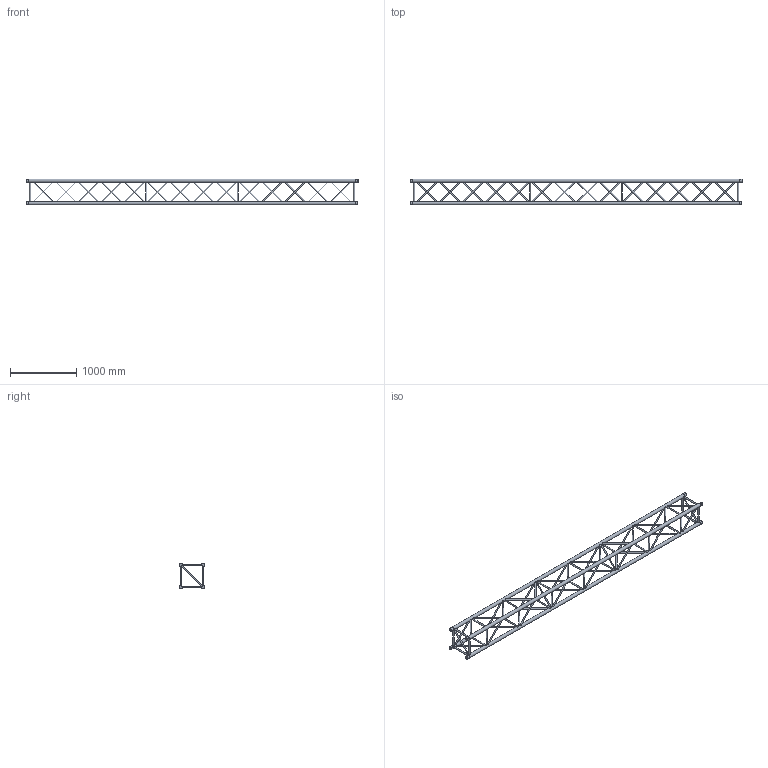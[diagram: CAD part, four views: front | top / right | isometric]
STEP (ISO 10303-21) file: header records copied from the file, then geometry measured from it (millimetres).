
FILE_DESCRIPTION(/* description */ (''),/* implementation_level */ '2;1');
FILE_NAME(/* name */ 'M:\Symbolen\STP\40-er truss\111080203.stp',/* time_stamp */ '2015-02-26T17:09:48+01:00',/* author */ ('Stephan'),/* organization */ (''),/* preprocessor_version */ 'ST-DEVELOPER v15.6',/* originating_system */ 'Autodesk Inventor 2015',/* authorisation */ '');
FILE_SCHEMA (('AUTOMOTIVE_DESIGN { 1 0 10303 214 3 1 1 }'));
Length unit declared in the file: millimetre
Products named in the file (1): 160023964
Bounding box: 5000 x 389.98 x 389.98 mm (x, y, z)
Volume: 47767519.4 mm3; surface area: 4975942.5 mm2
Topology: 64 solids, 72 shells, 488 faces, 904 edges, 560 vertices
Faces by surface type: plane 280, cylinder 200, cone 8
Full cylindrical faces by diameter (mm): 10 x8, 20 x68, 49.5 x8, 51 x4
Entity records: 12607 total; most frequent: CARTESIAN_POINT 3401, ORIENTED_EDGE 1616, DIRECTION 1586, EDGE_CURVE 792, AXIS2_PLACEMENT_3D 673, EDGE_LOOP 624, VERTEX_POINT 552, STYLED_ITEM 381
